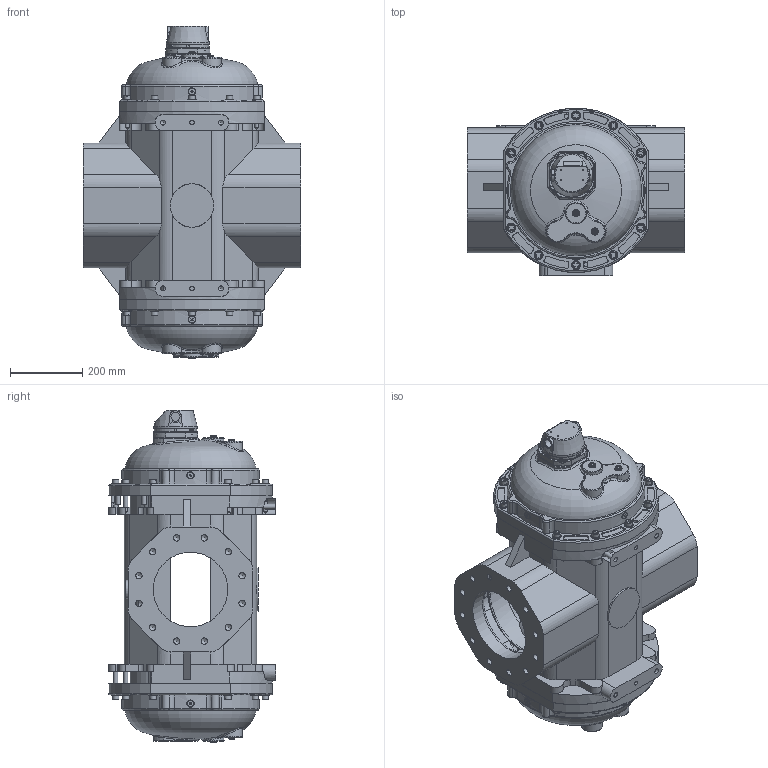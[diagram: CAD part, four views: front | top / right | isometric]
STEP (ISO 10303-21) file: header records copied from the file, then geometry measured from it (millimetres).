
FILE_DESCRIPTION(('STEP AP203'), '1');
FILE_NAME('G1000-DN200', '2024-02-08T16:03:46', (''), (''), 'C3D Converter', 'C3D Toolkit', '');
FILE_SCHEMA(('CONFIG_CONTROL_DESIGN'));
Length unit declared in the file: millimetre
Products named in the file (1): G1000
Bounding box: 600 x 461.75 x 916.7 mm (x, y, z)
Volume: 11330750.3 mm3; surface area: 3408335.9 mm2
Topology: 8 solids, 16 shells, 1852 faces, 4470 edges, 2873 vertices
Faces by surface type: plane 769, cylinder 703, cone 193, torus 141, bspline 40, sphere 6
Full cylindrical faces by diameter (mm): 2 x8, 2.05 x2, 2.5 x10, 3 x2, 3.15 x1, 3.2 x6, 3.3 x1, 4 x2, 4.2 x4, 4.5 x1, 5 x6, 5.2 x4, 5.774 x9, 5.8 x4, 6.2 x6, 6.6 x2, 7.5 x4, 8 x6, 9.4 x4, 10.2 x30, 11 x6, 12 x26, 12.3 x2, 12.7 x11, 13 x20, 13.096 x12, 13.5 x21, 14 x3, 14.287 x2, 16 x4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
Entity records: 89560 total; most frequent: CARTESIAN_POINT 49134, DIRECTION 8465, ORIENTED_EDGE 7386, EDGE_CURVE 3782, AXIS2_PLACEMENT_3D 3478, VERTEX_POINT 2783, EDGE_LOOP 2772, FACE_BOUND 1869
